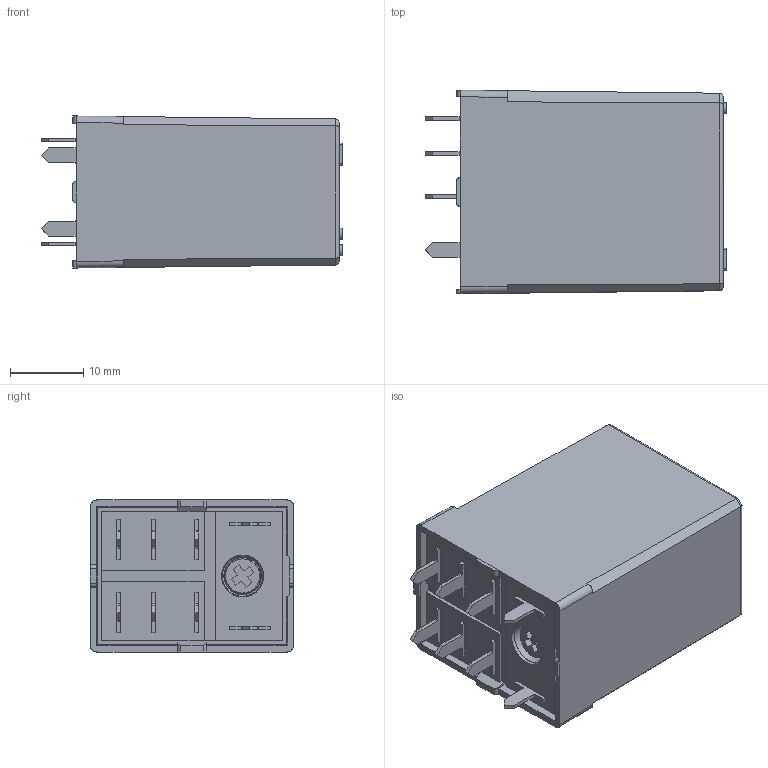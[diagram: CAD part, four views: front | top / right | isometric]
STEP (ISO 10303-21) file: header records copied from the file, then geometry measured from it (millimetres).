
FILE_DESCRIPTION(('STEP AP214'),'2;1');
FILE_NAME('56_42-0300_senza pulsante.stp','2011-05-18T08:42:04',(''),(''),'2007.1.106','THINKDESIGN','');
FILE_SCHEMA(('AUTOMOTIVE_DESIGN'));
Length unit declared in the file: millimetre
Products named in the file (1): None
Bounding box: 41.1 x 27.73 x 20.73 mm (x, y, z)
Surface area: 7526.5 mm2 (no closed solid volume)
Topology: 0 solids, 0 shells, 219 faces, 1204 edges, 1189 vertices
Faces by surface type: plane 148, cylinder 43, bspline 28
Full cylindrical faces by diameter (mm): 1.5 x2, 5 x1
Entity records: 12802 total; most frequent: CARTESIAN_POINT 4213, DIRECTION 1436, COMPOSITE_CURVE_SEGMENT 1204, TRIMMED_CURVE 986, VECTOR 930, LINE 930, AXIS2_PLACEMENT_3D 253, OUTER_BOUNDARY_CURVE 219
